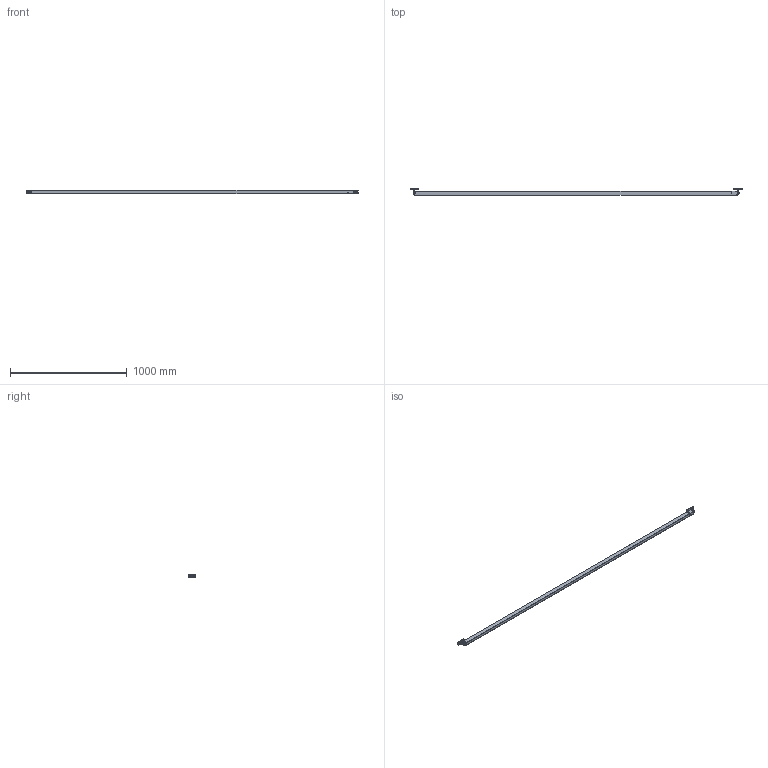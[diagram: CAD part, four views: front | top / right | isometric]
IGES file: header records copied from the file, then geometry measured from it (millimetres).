
Global section: file name: No Iges File Name specified; native system: Autodesk Inventor 2009; preprocessor: AutoDesk Inventor Iges Exporter R2009; author: seisen; date: 20121207.095631; units: millimetre
Bounding box: 2839.91 x 55.35 x 34 mm (x, y, z)
Volume: 2508405.5 mm3; surface area: 451734.6 mm2
Topology: 21 solids, 21 shells, 867 faces, 2297 edges, 1454 vertices
Faces by surface type: plane 325, cylinder 160, revolution 156, bspline 134, torus 44, cone 32, sphere 16
